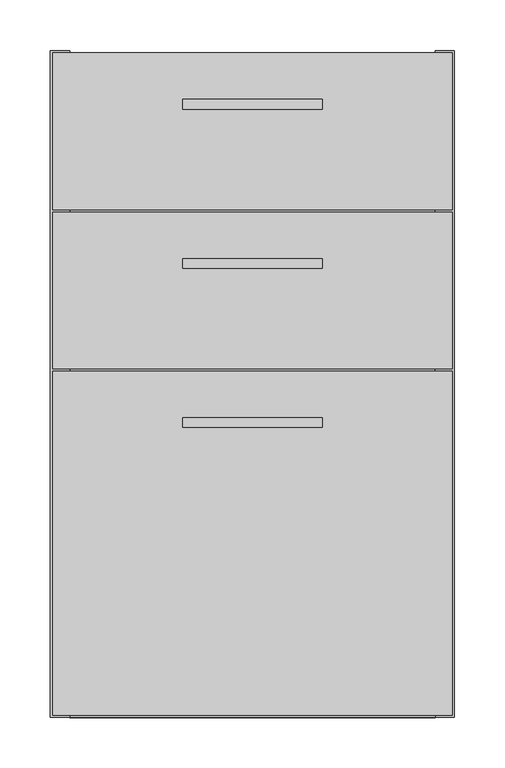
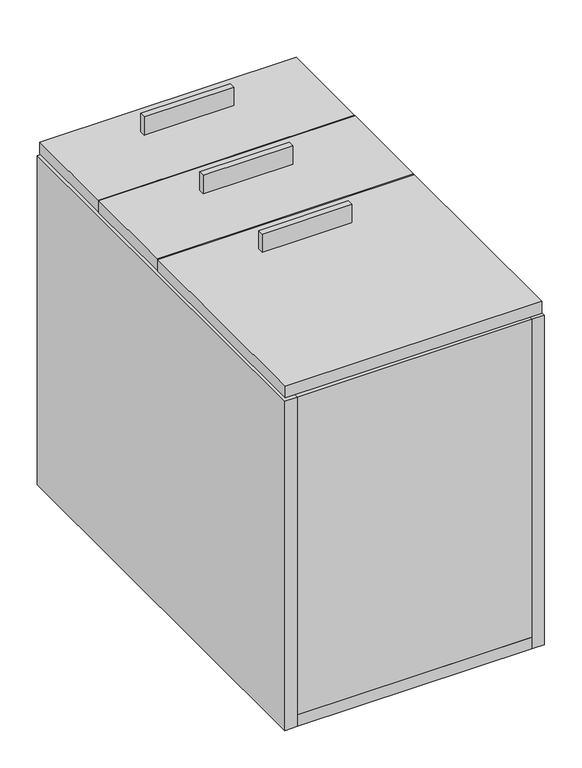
"""IFC4 building model written with IfcOpenShell, lengths in millimetres: proxy geometry, FOUNDATION^PEDESTAL_LETTER BBF 22D-SOLID ASSEMBLY."""

from ifc_helpers import new_model, si_unit, frame, origin, origin_with_axes, place, context, project, spatial, polyline, outline, extrude, source, transform, mapped, element, save


def generic_models_abc72f08(model_context):
    return source(origin(), model_context, "Body", "SweptSolid", [
        extrude(outline(polyline([(269.08125, 444.896875), (130.96875, 444.896875), (130.96875, 454.421875), (269.08125, 454.421875), (269.08125, 444.896875)])), frame((0.0, 0.0, 558.8), z_axis=(0.0, 0.0, 1.0), x_axis=(1.0, 0.0, 0.0)), (0.0, 0.0, 1.0), 30.1625),
        extrude(outline(polyline([(0.0, 660.4), (19.05, 660.4), (19.05, 0.0), (0.0, 0.0), (0.0, 660.4)])), origin_with_axes(), (0.0, 0.0, 1.0), 536.575),
        extrude(outline(polyline([(397.66875, 502.840625), (2.38125, 502.840625), (2.38125, 658.01875), (397.66875, 658.01875), (397.66875, 502.840625)])), frame((0.0, 0.0, 539.75), z_axis=(0.0, 0.0, 1.0), x_axis=(1.0, 0.0, 0.0)), (0.0, 0.0, 1.0), 19.05),
        extrude(outline(polyline([(2.38125, 500.459375), (397.66875, 500.459375), (397.66875, 345.28125), (2.38125, 345.28125), (2.38125, 500.459375)])), frame((0.0, 0.0, 539.75), z_axis=(0.0, 0.0, 1.0), x_axis=(1.0, 0.0, 0.0)), (0.0, 0.0, 1.0), 19.05),
        extrude(outline(polyline([(381.0, 25.4), (381.0, 0.0), (19.05, 0.0), (19.05, 25.4), (381.0, 25.4)])), frame((0.0, 0.0, 19.05), z_axis=(0.0, 0.0, 1.0), x_axis=(1.0, 0.0, 0.0)), (0.0, 0.0, 1.0), 517.525),
        extrude(outline(polyline([(2.38125, 2.38125), (2.38125, 342.9), (397.66875, 342.9), (397.66875, 2.38125), (2.38125, 2.38125)])), frame((0.0, 0.0, 539.75), z_axis=(0.0, 0.0, 1.0), x_axis=(1.0, 0.0, 0.0)), (0.0, 0.0, 1.0), 19.05),
        extrude(outline(polyline([(19.05, 546.1), (381.0, 546.1), (381.0, 0.0), (19.05, 0.0), (19.05, 546.1)])), origin_with_axes(), (0.0, 0.0, 1.0), 19.05),
        extrude(outline(polyline([(381.0, 660.4), (400.05, 660.4), (400.05, 0.0), (381.0, 0.0), (381.0, 660.4)])), origin_with_axes(), (0.0, 0.0, 1.0), 536.575),
        extrude(outline(polyline([(269.08125, 602.45625), (130.96875, 602.45625), (130.96875, 611.98125), (269.08125, 611.98125), (269.08125, 602.45625)])), frame((0.0, 0.0, 558.8), z_axis=(0.0, 0.0, 1.0), x_axis=(1.0, 0.0, 0.0)), (0.0, 0.0, 1.0), 30.1625),
        extrude(outline(polyline([(269.08125, 287.3375), (130.96875, 287.3375), (130.96875, 296.8625), (269.08125, 296.8625), (269.08125, 287.3375)])), frame((0.0, 0.0, 558.8), z_axis=(0.0, 0.0, 1.0), x_axis=(1.0, 0.0, 0.0)), (0.0, 0.0, 1.0), 30.1625),
    ])


if __name__ == "__main__":
    model = new_model("IFC4")
    model_context = context("Model", 3, world=origin())
    ifc_project = project(units=[si_unit("LENGTHUNIT", "METRE", prefix="MILLI")], contexts=[model_context])
    site = spatial("IfcSite", under=ifc_project)
    building = spatial("IfcBuilding", under=site)
    placement = place(None, origin())
    generic_models_shape = generic_models_abc72f08(model_context)
    element("IfcBuildingElementProxy", 1, Name="FOUNDATION^PEDESTAL_LETTER BBF 22D-SOLID ASSEMBLY", ObjectType="FOUNDATION^PEDESTAL_LETTER BBF 22D-SOLID ASSEMBLY", at=placement, inside=building, context=model_context, shape_type="MappedRepresentation", body=[
        mapped(generic_models_shape, transform((0.0, 0.0, 0.0), x_axis=(1.0, 0.0, 0.0), y_axis=(0.0, 1.0, 0.0), z_axis=(0.0, 0.0, 1.0))),
    ])
    save(model, "model.ifc")
